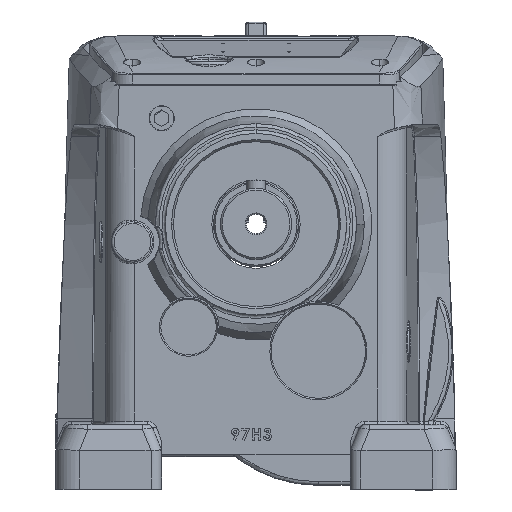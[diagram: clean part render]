
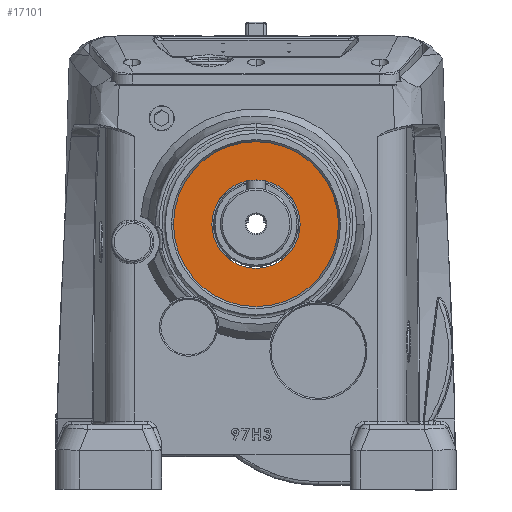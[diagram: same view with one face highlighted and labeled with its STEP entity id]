
A CAD part, top view. The second image highlights one B-rep face of the part: STEP entity #17101.
In plain terms, the highlighted planar face has unit normal (0, 0, 1).
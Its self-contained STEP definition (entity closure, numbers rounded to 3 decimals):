
#4195 = FACE_BOUND ( 'NONE', #16122, .T. ) ;
#4196 = FACE_OUTER_BOUND ( 'NONE', #16124, .T. ) ;
#4905 = AXIS2_PLACEMENT_3D ( 'NONE', #44297, #44296, #44295 ) ;
#10702 = CIRCLE ( 'NONE', #10714, 70. ) ;
#10703 = CIRCLE ( 'NONE', #10705, 37.5 ) ;
#10705 = AXIS2_PLACEMENT_3D ( 'NONE', #39455, #39456, #39457 ) ;
#10711 = CIRCLE ( 'NONE', #10722, 37.5 ) ;
#10714 = AXIS2_PLACEMENT_3D ( 'NONE', #39479, #39480, #39481 ) ;
#10722 = AXIS2_PLACEMENT_3D ( 'NONE', #39492, #39493, #39494 ) ;
#10749 = CIRCLE ( 'NONE', #10754, 70. ) ;
#10754 = AXIS2_PLACEMENT_3D ( 'NONE', #39550, #39551, #39552 ) ;
#15741 = VERTEX_POINT ( 'NONE', #44964 ) ;
#15742 = VERTEX_POINT ( 'NONE', #44963 ) ;
#15745 = VERTEX_POINT ( 'NONE', #44960 ) ;
#15746 = VERTEX_POINT ( 'NONE', #44959 ) ;
#16122 = EDGE_LOOP ( 'NONE', ( #21270, #21269 ) ) ;
#16124 = EDGE_LOOP ( 'NONE', ( #21268, #21267 ) ) ;
#17101 = ADVANCED_FACE ( 'NONE', ( #4195, #4196 ), #44298, .F. ) ;
#21267 = ORIENTED_EDGE ( 'NONE', *, *, #55927, .T. ) ;
#21268 = ORIENTED_EDGE ( 'NONE', *, *, #55995, .T. ) ;
#21269 = ORIENTED_EDGE ( 'NONE', *, *, #55940, .F. ) ;
#21270 = ORIENTED_EDGE ( 'NONE', *, *, #55915, .F. ) ;
#39455 = CARTESIAN_POINT ( 'NONE',  ( 0., 0., 14. ) ) ;
#39456 = DIRECTION ( 'NONE',  ( 0., 0., 1. ) ) ;
#39457 = DIRECTION ( 'NONE',  ( 1., 0., 0. ) ) ;
#39479 = CARTESIAN_POINT ( 'NONE',  ( 0., 0., 14. ) ) ;
#39480 = DIRECTION ( 'NONE',  ( 0., 0., 1. ) ) ;
#39481 = DIRECTION ( 'NONE',  ( 1., 0., 0. ) ) ;
#39492 = CARTESIAN_POINT ( 'NONE',  ( 0., 0., 14. ) ) ;
#39493 = DIRECTION ( 'NONE',  ( 0., 0., 1. ) ) ;
#39494 = DIRECTION ( 'NONE',  ( 1., 0., 0. ) ) ;
#39550 = CARTESIAN_POINT ( 'NONE',  ( 0., 0., 14. ) ) ;
#39551 = DIRECTION ( 'NONE',  ( 0., 0., 1. ) ) ;
#39552 = DIRECTION ( 'NONE',  ( 1., 0., 0. ) ) ;
#44295 = DIRECTION ( 'NONE',  ( -1., 0., 0. ) ) ;
#44296 = DIRECTION ( 'NONE',  ( 0., 0., -1. ) ) ;
#44297 = CARTESIAN_POINT ( 'NONE',  ( 0., 70., 14. ) ) ;
#44298 = PLANE ( 'NONE',  #4905 ) ;
#44959 = CARTESIAN_POINT ( 'NONE',  ( 37.5, 0., 14. ) ) ;
#44960 = CARTESIAN_POINT ( 'NONE',  ( -37.5, 0., 14. ) ) ;
#44963 = CARTESIAN_POINT ( 'NONE',  ( 70., 0., 14. ) ) ;
#44964 = CARTESIAN_POINT ( 'NONE',  ( -70., 0., 14. ) ) ;
#55915 = EDGE_CURVE ( 'NONE', #15746, #15745, #10703, .T. ) ;
#55927 = EDGE_CURVE ( 'NONE', #15741, #15742, #10702, .T. ) ;
#55940 = EDGE_CURVE ( 'NONE', #15745, #15746, #10711, .T. ) ;
#55995 = EDGE_CURVE ( 'NONE', #15742, #15741, #10749, .T. ) ;
